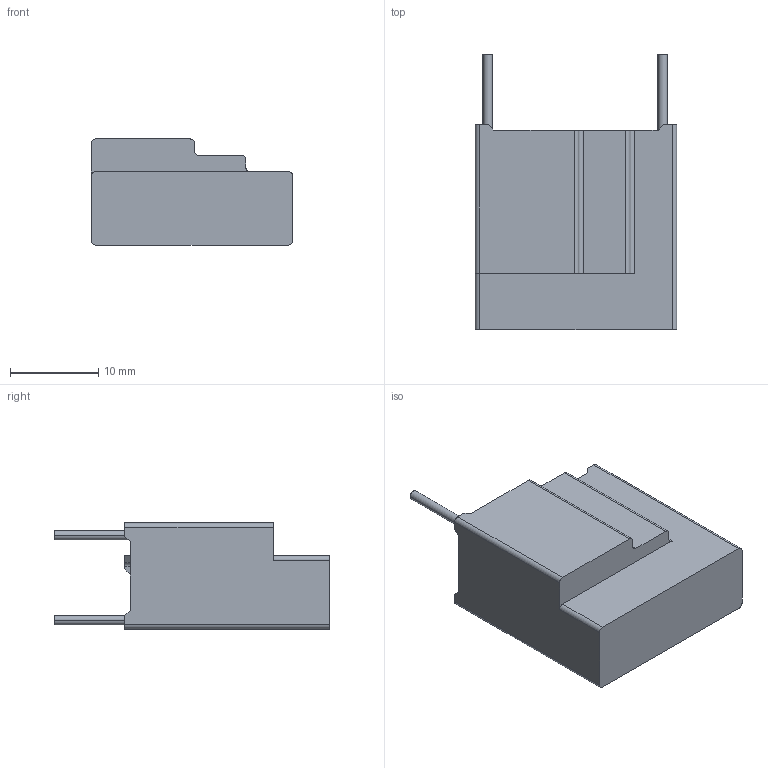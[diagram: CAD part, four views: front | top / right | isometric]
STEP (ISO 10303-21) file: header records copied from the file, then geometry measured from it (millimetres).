
FILE_DESCRIPTION((''),'2;1');
FILE_NAME('20S4501-20200616','2020-06-19T',('set'),(''),'PRO/ENGINEER BY PARAMETRIC TECHNOLOGY CORPORATION, 2012310','PRO/ENGINEER BY PARAMETRIC TECHNOLOGY CORPORATION, 2012310','');
FILE_SCHEMA(('CONFIG_CONTROL_DESIGN','SHAPE_APPEARANCE_LAYERS_GROUPS'));
Length unit declared in the file: millimetre
Products named in the file (1): 20S4501-20200616
Bounding box: 22.8 x 31.2 x 12 mm (x, y, z)
Volume: 1471.4 mm3; surface area: 3797.9 mm2
Topology: 1 solids, 2 shells, 101 faces, 285 edges, 190 vertices
Faces by surface type: plane 77, cylinder 24
Entity records: 3296 total; most frequent: CARTESIAN_POINT 576, ORIENTED_EDGE 570, DIRECTION 535, EDGE_CURVE 285, VECTOR 237, LINE 237, VERTEX_POINT 190, AXIS2_PLACEMENT_3D 149
